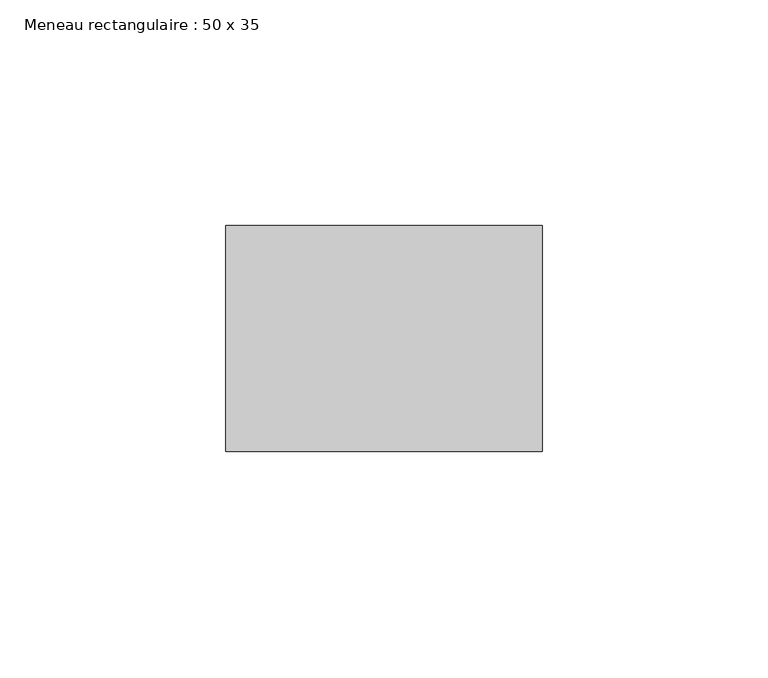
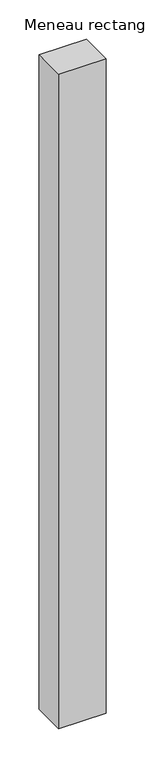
"""IFC4 building model written with IfcOpenShell, lengths in millimetres: member geometry, Meneau rectangulaire : 50 x 35."""

from ifc_helpers import new_model, si_unit, frame, origin, place, context, project, spatial, polyline, outline, extrude, source, transform, mapped, element, save


def meneau_rectangulaire_50_x_35_a72c2235(model_context):
    return source(origin(), model_context, "Body", "SweptSolid", [
        extrude(outline(polyline([(35.0, 0.0), (35.0, -50.0), (-35.0, -50.0), (-35.0, 0.0), (35.0, 0.0)])), frame((0.0, 0.0, -1021.125742), z_axis=(0.0, 0.0, 1.0), x_axis=(1.0, 0.0, 0.0)), (0.0, 0.0, 1.0), 1021.125742),
    ])


if __name__ == "__main__":
    model = new_model("IFC4")
    model_context = context("Model", 3, world=origin())
    ifc_project = project(units=[si_unit("LENGTHUNIT", "METRE", prefix="MILLI")], contexts=[model_context])
    site = spatial("IfcSite", under=ifc_project)
    building = spatial("IfcBuilding", under=site)
    placement = place(None, origin())
    meneau_rectangulaire_50_x_35_shape = meneau_rectangulaire_50_x_35_a72c2235(model_context)
    element("IfcMember", 1, ObjectType="Meneau rectangulaire : 50 x 35", at=placement, inside=building, context=model_context, shape_type="MappedRepresentation", body=[
        mapped(meneau_rectangulaire_50_x_35_shape, transform((0.0, 0.0, 0.0), x_axis=(1.0, 0.0, 0.0), y_axis=(0.0, 1.0, 0.0), z_axis=(0.0, 0.0, 1.0))),
    ])
    save(model, "model.ifc")
